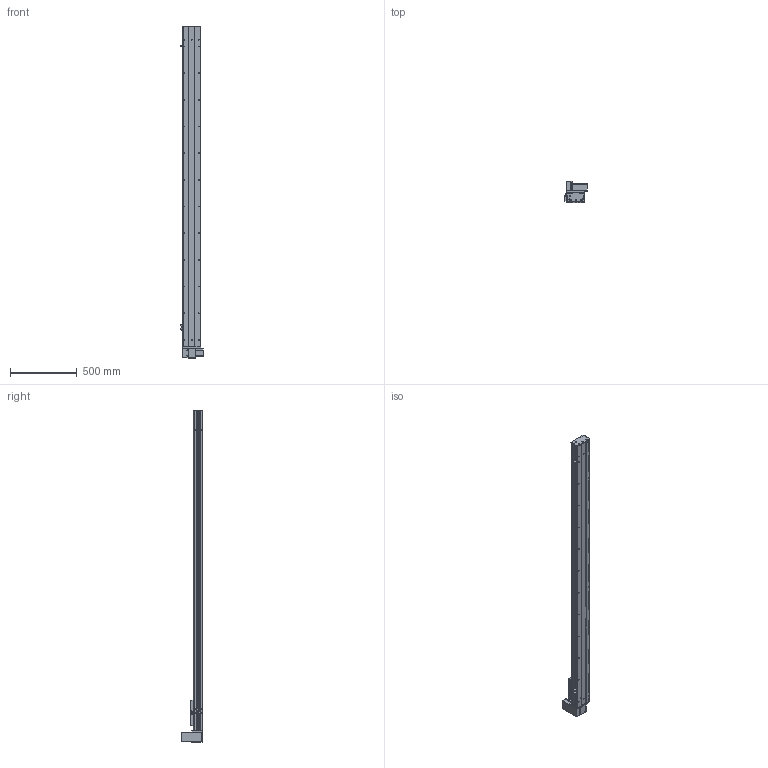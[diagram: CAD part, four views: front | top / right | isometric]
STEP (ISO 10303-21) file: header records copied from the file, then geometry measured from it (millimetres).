
FILE_DESCRIPTION (( 'STEP AP203' ), '1' );
FILE_NAME ('Y135CB-D90-S2100-UR-P400W.STEP', '2020-02-18T06:27:06', ( '微软用户' ), ( '微软中国' ), 'SwSTEP 2.0', 'SolidWorks 2017', '' );
FILE_SCHEMA (( 'CONFIG_CONTROL_DESIGN' ));
Length unit declared in the file: millimetre
Products named in the file (18): Y100-135俋离換覜ん--; 0B-源倛裔啣; Y135C-陔俋离換覜結え-; 0B-萇儂楊擘啣; 5C--俋欶; san松下电机400不带刹车----; C-雄赽釱--; 5CB --掛极耜裔啣-; Y10B--々湍喘謫眊--666; C-詩湍揤踡え-陔; Y135CB-耜裔; Y10B-耜蚾蟀諉啣----; 135CB---遴掛极.-; 00B-俋欶BM--; 35CB---喘謫眊楊擘啣; Y135CB-D90-S2100-UR-P400W; 135CB--詩湍-CE; 0B-埴倛裔啣
Assembly tree (21 placements, depth 2):
  Y135CB-D90-S2100-UR-P400W
    Y135CB-耜裔
    135CB---遴掛极.-
    35CB---喘謫眊楊擘啣
    0B-埴倛裔啣
    0B-源倛裔啣
    0B-萇儂楊擘啣
    san松下电机400不带刹车----
    5CB --掛极耜裔啣-  x2
    C-詩湍揤踡え-陔  x2
    135CB--詩湍-CE
    Y100-135俋离換覜ん--  x3
    Y135C-陔俋离換覜結え-
    5C--俋欶
    C-雄赽釱--
    Y10B--々湍喘謫眊--666
    Y10B-耜蚾蟀諉啣----
    00B-俋欶BM--
Bounding box: 167.5 x 158.7 x 2488 mm (x, y, z)
Volume: 7242941.2 mm3; surface area: 2863046.3 mm2
Topology: 21 solids, 21 shells, 969 faces, 2635 edges, 1746 vertices
Faces by surface type: cylinder 497, plane 456, cone 16
Entity records: 30561 total; most frequent: DIRECTION 5079, CARTESIAN_POINT 5076, ORIENTED_EDGE 4746, EDGE_CURVE 2373, AXIS2_PLACEMENT_3D 1861, VERTEX_POINT 1574, VECTOR 1357, LINE 1357
